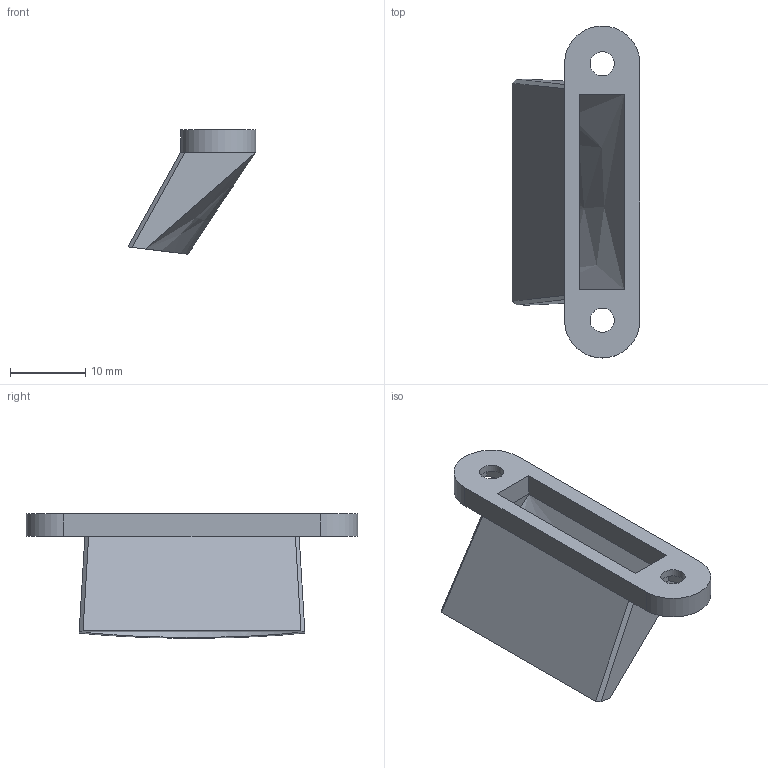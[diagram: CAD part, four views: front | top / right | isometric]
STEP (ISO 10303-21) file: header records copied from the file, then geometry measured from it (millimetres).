
FILE_DESCRIPTION(/* description */ (''),/* implementation_level */ '2;1');
FILE_NAME(/* name */ 'D:\3D печать\Мои проекты\Archy MK 2\STEP\MK3\диффузор V2.stp',/* time_stamp */ '2019-07-18T21:40:42+06:00',/* author */ ('Пользователь'),/* organization */ (''),/* preprocessor_version */ 'ST-DEVELOPER v16.5',/* originating_system */ 'Autodesk Inventor 2017',/* authorisation */ '');
FILE_SCHEMA (('AUTOMOTIVE_DESIGN { 1 0 10303 214 3 1 1 }'));
Length unit declared in the file: millimetre
Products named in the file (1): диффузор V2
Bounding box: 16.96 x 44 x 16.49 mm (x, y, z)
Volume: 1956.3 mm3; surface area: 3025.1 mm2
Topology: 1 solids, 1 shells, 40 faces, 128 edges, 112 vertices
Faces by surface type: plane 34, cylinder 4, bspline 2
Full cylindrical faces by diameter (mm): 3.2 x2
Entity records: 1485 total; most frequent: CARTESIAN_POINT 347, DIRECTION 211, ORIENTED_EDGE 204, LINE 111, VECTOR 111, EDGE_CURVE 102, VERTEX_POINT 66, AXIS2_PLACEMENT_3D 50
